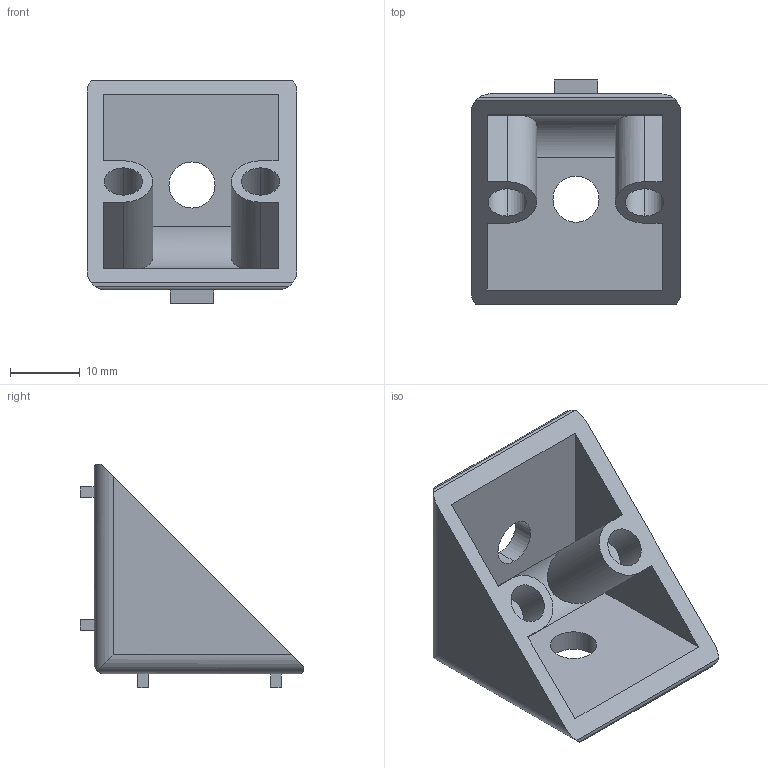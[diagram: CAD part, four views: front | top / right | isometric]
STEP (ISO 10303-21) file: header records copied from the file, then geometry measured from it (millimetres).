
FILE_DESCRIPTION (( 'STEP AP203' ), '1' );
FILE_NAME ('0106W3030.STEP', '2024-09-06T11:20:04', ( 'Windows-Benutzer' ), ( '' ), 'SwSTEP 2.0', 'SolidWorks 2024', '' );
FILE_SCHEMA (( 'CONFIG_CONTROL_DESIGN' ));
Length unit declared in the file: millimetre
Products named in the file (1): 0106W3030
Bounding box: 30 x 32 x 32 mm (x, y, z)
Volume: 7213.9 mm3; surface area: 5337.6 mm2
Topology: 1 solids, 1 shells, 61 faces, 156 edges, 104 vertices
Faces by surface type: plane 41, cylinder 20
Entity records: 2041 total; most frequent: CARTESIAN_POINT 472, ORIENTED_EDGE 312, DIRECTION 298, EDGE_CURVE 156, VECTOR 106, LINE 106, VERTEX_POINT 104, AXIS2_PLACEMENT_3D 96
